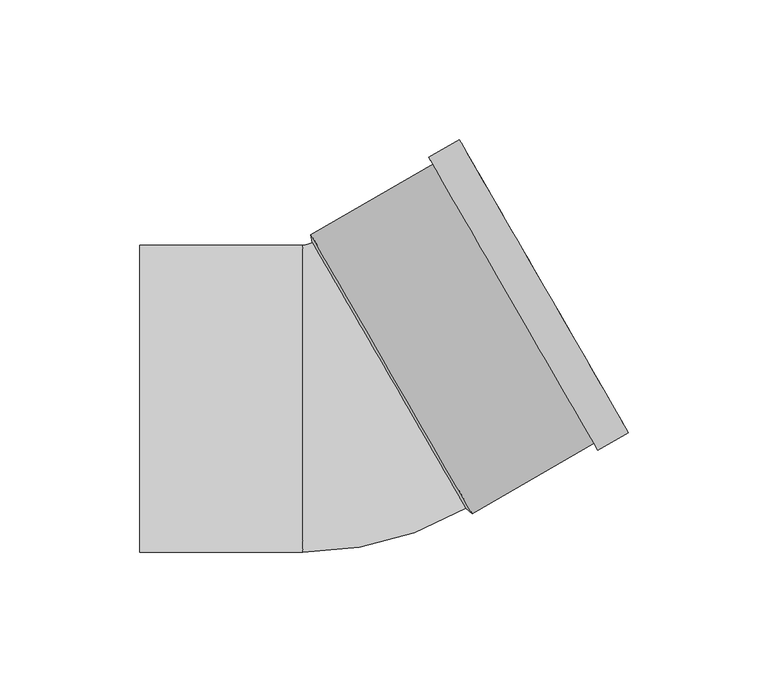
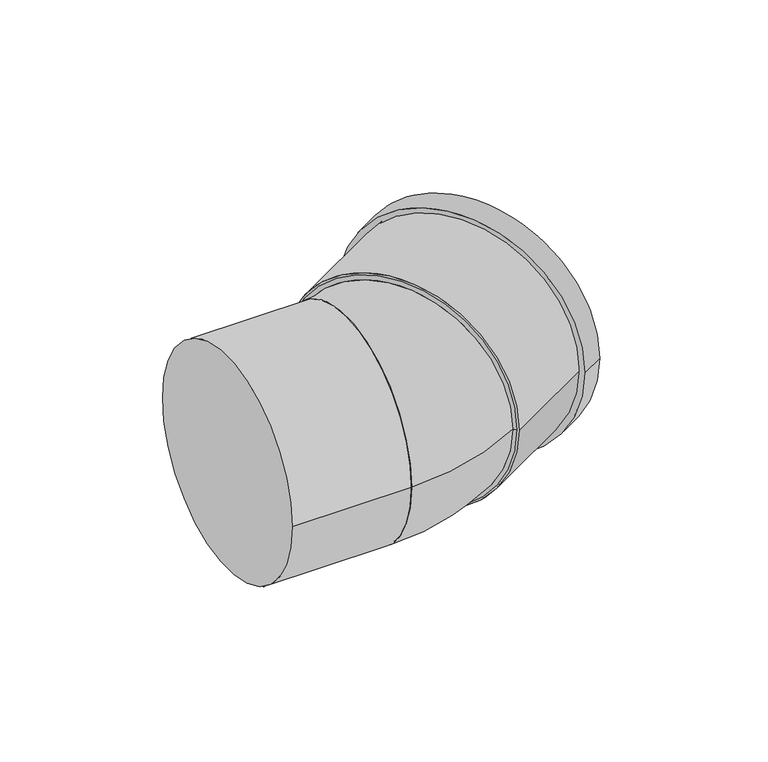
"""IFC4 building model written with IfcOpenShell, lengths in millimetres: pipe fitting geometry, Superdrain HT bend : Superdrain HT Bend."""

from ifc_helpers import new_model, si_unit, point, frame, origin, origin_2d, place, context, project, spatial, polyline, circle_curve, ellipse_curve, trimmed, segment, composite_curve, outline, extrude, source, transform, mapped, element, save
from ifc_brep_helpers import plane_surface, revolved_surface, advanced_brep


def pipe_fitting_5a3bc76c(model_context):
    return source(origin(), model_context, "Body", "SolidModel", [
        advanced_brep(
        [(41.8760217, -39.3313972, 0.0), (-13.1239783, 55.9313972, 0.0), (-16.6, -55.0, 0.0), (-16.6, 55.0, 0.0)],
        [
            (0, 1, circle_curve(frame((14.3760217, 8.3, 0.0), z_axis=(0.8660254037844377, 0.5000000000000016, 0.0), x_axis=(-0.5000000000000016, 0.8660254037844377, 0.0)), 55.0)),
            (1, 0, circle_curve(frame((14.3760217, 8.3, 0.0), z_axis=(0.866025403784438, 0.500000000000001, 0.0), x_axis=(-0.500000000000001, 0.866025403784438, 0.0)), 55.0)),
            (2, 3, circle_curve(frame((-16.6, 0.0, 0.0), z_axis=(-1.0, 0.0, 0.0), x_axis=(0.0, 1.0, 0.0)), 55.0)),
            (3, 2, circle_curve(frame((-16.6, 0.0, 0.0), z_axis=(-1.0, 0.0, 0.0), x_axis=(0.0, 1.0, 0.0)), 55.0)),
            (3, 1, circle_curve(frame((-16.6, 61.9520434, 0.0), z_axis=(0.0, 0.0, 1.0), x_axis=(1.0, 0.0, 0.0)), 6.9520434)),
            (0, 2, circle_curve(frame((-16.6, 61.9520434, 0.0), z_axis=(0.0, 0.0, -1.0), x_axis=(1.0, 0.0, 0.0)), 116.9520434)),
        ],
        [
            plane_surface(frame((14.3760217, 8.3, 0.0), z_axis=(0.8660254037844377, 0.5000000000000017, 0.0), x_axis=(0.0, 0.0, -1.0))),
            plane_surface(frame((-16.6, 0.0, 0.0), z_axis=(-1.0, 0.0, 0.0), x_axis=(0.0, 0.0, -1.0))),
            revolved_surface(trimmed(ellipse_curve(frame((45.3520434, 61.9520434, 0.0), z_axis=(0.0, -1.0, 0.0), x_axis=(-1.0, 0.0, 0.0)), 55.0, 55.0), [point((-9.6479566, 61.9520434, 0.0))], [point((100.3520434, 61.9520434, 0.0))], True, "CARTESIAN"), (-16.6, 61.9520434, 0.0), (0.0, 0.0, 1.0)),
            revolved_surface(trimmed(ellipse_curve(frame((45.3520434, 61.9520434, 0.0), z_axis=(0.0, -1.0, 0.0), x_axis=(-1.0, 0.0, 0.0)), 55.0, 55.0), [point((100.3520434, 61.9520434, 0.0))], [point((-9.6479566, 61.9520434, 0.0))], True, "CARTESIAN"), (-16.6, 61.9520434, 0.0), (0.0, 0.0, 1.0)),
        ],
        [
            (0, [[1, 2]]),
            (1, [[3, 4]]),
            (2, [[-4, 5, -1, 6]]),
            (3, [[-3, -6, -2, -5]]),
        ],
    ),
        extrude(outline(composite_curve([segment(trimmed(circle_curve(origin_2d(), 57.75), [point((0.0, 57.75))], [point((0.0, -57.75))], False, "CARTESIAN"), True, "CONTINUOUS"), segment(trimmed(circle_curve(origin_2d(), 57.75), [point((0.0, -57.75))], [point((0.0, 57.75))], False, "CARTESIAN"), True, "CONTINUOUS")], self_intersect=False), holes=[composite_curve([segment(trimmed(circle_curve(origin_2d(), 55.0), [point((0.0, 55.0))], [point((0.0, -55.0))], True, "CARTESIAN"), True, "CONTINUOUS"), segment(trimmed(circle_curve(origin_2d(), 55.0), [point((0.0, -55.0))], [point((0.0, 55.0))], True, "CARTESIAN"), True, "CONTINUOUS")], self_intersect=False)]), frame((15.2420471, 8.8, 0.0), z_axis=(0.8660254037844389, 0.49999999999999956, 0.0), x_axis=(0.0, 0.0, 1.0)), (0.0, 0.0, 1.0), 63.0),
        extrude(outline(composite_curve([segment(trimmed(circle_curve(origin_2d(), 60.6375), [point((0.0, -60.6375))], [point((0.0, 60.6375))], False, "CARTESIAN"), True, "CONTINUOUS"), segment(trimmed(circle_curve(origin_2d(), 60.6375), [point((0.0, 60.6375))], [point((0.0, -60.6375))], False, "CARTESIAN"), True, "CONTINUOUS")], self_intersect=False), holes=[composite_curve([segment(trimmed(circle_curve(origin_2d(), 55.0), [point((0.0, -55.0))], [point((0.0, 55.0))], True, "CARTESIAN"), True, "CONTINUOUS"), segment(trimmed(circle_curve(origin_2d(), 55.0), [point((0.0, 55.0))], [point((0.0, -55.0))], True, "CARTESIAN"), True, "CONTINUOUS")], self_intersect=False)]), frame((58.8897275, 34.0, 0.0), z_axis=(0.8660254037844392, 0.4999999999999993, 0.0), x_axis=(0.0, 0.0, 1.0)), (0.0, 0.0, 1.0), 12.6),
        advanced_brep(
        [(44.1170471, -41.2129671, 0.0), (-13.6329529, 58.8129671, 0.0), (41.8760217, -39.3313972, 0.0), (-13.1239783, 55.9313972, 0.0)],
        [
            (0, 1, circle_curve(frame((15.2420471, 8.8, 0.0), z_axis=(0.8660254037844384, 0.5000000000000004, 0.0), x_axis=(0.5000000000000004, -0.8660254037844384, 0.0)), 57.75)),
            (1, 0, circle_curve(frame((15.2420471, 8.8, 0.0), z_axis=(0.8660254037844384, 0.5000000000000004, 0.0), x_axis=(-0.5000000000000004, 0.8660254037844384, 0.0)), 57.75)),
            (2, 3, circle_curve(frame((14.3760217, 8.3, 0.0), z_axis=(-0.8660254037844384, -0.5000000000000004, 0.0), x_axis=(-0.5000000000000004, 0.8660254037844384, 0.0)), 55.0)),
            (3, 2, circle_curve(frame((14.3760217, 8.3, 0.0), z_axis=(-0.8660254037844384, -0.5000000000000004, 0.0), x_axis=(0.5000000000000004, -0.8660254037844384, 0.0)), 55.0)),
            (3, 1),
            (0, 2),
        ],
        [
            plane_surface(frame((15.2420471, 8.8, 0.0), z_axis=(0.8660254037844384, 0.5000000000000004, 0.0), x_axis=(0.0, 0.0, -1.0))),
            plane_surface(frame((14.3760217, 8.3, 0.0), z_axis=(-0.8660254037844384, -0.5000000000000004, 0.0), x_axis=(0.0, 0.0, -1.0))),
            revolved_surface(polyline([(-13.123978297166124, 55.93139719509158, 0.0), (-13.6329529, 58.8129671, 0.0)]), (-2.9444864, -1.7, 0.0), (0.8660254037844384, 0.5000000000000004, 0.0)),
            revolved_surface(polyline([(41.87602172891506, -39.331397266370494, 0.0), (44.11704717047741, -41.21296715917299, 0.0)]), (-2.9444864, -1.7, 0.0), (0.8660254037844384, 0.5000000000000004, 0.0)),
        ],
        [
            (0, [[1, 2]]),
            (1, [[3, 4]]),
            (2, [[-4, 5, -1, 6]]),
            (3, [[-3, -6, -2, -5]]),
        ],
    ),
        extrude(outline(composite_curve([segment(trimmed(circle_curve(origin_2d(), 55.0), [point((-55.0, 0.0))], [point((55.0, 0.0))], False, "CARTESIAN"), True, "CONTINUOUS"), segment(trimmed(circle_curve(origin_2d(), 55.0), [point((55.0, 0.0))], [point((-55.0, 0.0))], False, "CARTESIAN"), True, "CONTINUOUS")], self_intersect=False)), frame((-75.0, 0.0, 0.0), z_axis=(1.0, 0.0, 0.0), x_axis=(0.0, 1.0, 0.0)), (0.0, 0.0, 1.0), 58.4),
    ])


if __name__ == "__main__":
    model = new_model("IFC4")
    model_context = context("Model", 3, world=origin())
    ifc_project = project(units=[si_unit("LENGTHUNIT", "METRE", prefix="MILLI")], contexts=[model_context])
    site = spatial("IfcSite", under=ifc_project)
    building = spatial("IfcBuilding", under=site)
    placement = place(None, origin())
    pipe_fitting_shape = pipe_fitting_5a3bc76c(model_context)
    element("IfcPipeFitting", 1, ObjectType="Superdrain HT bend : Superdrain HT Bend", at=placement, inside=building, context=model_context, shape_type="MappedRepresentation", body=[
        mapped(pipe_fitting_shape, transform((0.0, 0.0, 0.0), x_axis=(1.0, 0.0, 0.0), y_axis=(0.0, 1.0, 0.0), z_axis=(0.0, 0.0, 1.0))),
    ])
    save(model, "model.ifc")
